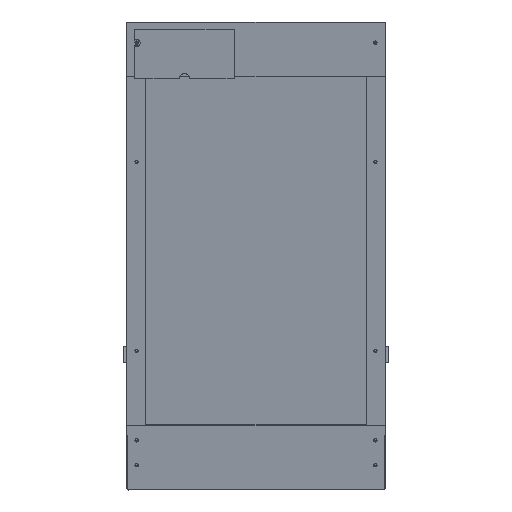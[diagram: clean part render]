
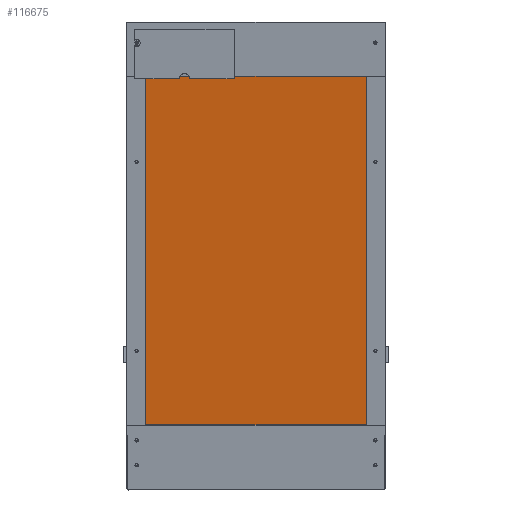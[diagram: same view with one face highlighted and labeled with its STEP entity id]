
A CAD part, top view. The second image highlights one B-rep face of the part: STEP entity #116675.
In plain terms, the highlighted planar face has unit normal (0, -0.174, 0.985).
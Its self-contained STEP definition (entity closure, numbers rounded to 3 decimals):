
#116506 = PLANE('',#116507);
#116507 = AXIS2_PLACEMENT_3D('',#116508,#116509,#116510);
#116508 = CARTESIAN_POINT('',(18.1,64.,86.285));
#116509 = DIRECTION('',(-0.,1.,0.));
#116510 = DIRECTION('',(0.,0.,-1.));
#116534 = PLANE('',#116535);
#116535 = AXIS2_PLACEMENT_3D('',#116536,#116537,#116538);
#116536 = CARTESIAN_POINT('',(241.9,240.675,111.437));
#116537 = DIRECTION('',(1.,0.,0.));
#116538 = DIRECTION('',(-0.,0.,1.));
#116562 = PLANE('',#116563);
#116563 = AXIS2_PLACEMENT_3D('',#116564,#116565,#116566);
#116564 = CARTESIAN_POINT('',(18.1,417.349,136.59));
#116565 = DIRECTION('',(0.,-1.,0.));
#116566 = DIRECTION('',(0.,0.,1.));
#116588 = PLANE('',#116589);
#116589 = AXIS2_PLACEMENT_3D('',#116590,#116591,#116592);
#116590 = CARTESIAN_POINT('',(18.1,240.675,111.437));
#116591 = DIRECTION('',(1.,0.,0.));
#116592 = DIRECTION('',(-0.,0.,1.));
#116605 = VERTEX_POINT('',#116606);
#116606 = CARTESIAN_POINT('',(241.9,417.349,148.59));
#116627 = EDGE_CURVE('',#116628,#116605,#116630,.T.);
#116628 = VERTEX_POINT('',#116629);
#116629 = CARTESIAN_POINT('',(18.1,417.349,148.59));
#116630 = SURFACE_CURVE('',#116631,(#116635,#116642),.PCURVE_S1.);
#116631 = LINE('',#116632,#116633);
#116632 = CARTESIAN_POINT('',(18.1,417.349,148.59));
#116633 = VECTOR('',#116634,1.);
#116634 = DIRECTION('',(1.,0.,0.));
#116635 = PCURVE('',#116562,#116636);
#116636 = DEFINITIONAL_REPRESENTATION('',(#116637),#116641);
#116637 = LINE('',#116638,#116639);
#116638 = CARTESIAN_POINT('',(12.,0.));
#116639 = VECTOR('',#116640,1.);
#116640 = DIRECTION('',(0.,-1.));
#116641 = ( GEOMETRIC_REPRESENTATION_CONTEXT(2) 
PARAMETRIC_REPRESENTATION_CONTEXT() REPRESENTATION_CONTEXT('2D SPACE',''
  ) );
#116642 = PCURVE('',#116643,#116648);
#116643 = PLANE('',#116644);
#116644 = AXIS2_PLACEMENT_3D('',#116645,#116646,#116647);
#116645 = CARTESIAN_POINT('',(18.1,417.349,148.59));
#116646 = DIRECTION('',(0.,0.174,-0.985));
#116647 = DIRECTION('',(0.,-0.985,-0.174));
#116648 = DEFINITIONAL_REPRESENTATION('',(#116649),#116653);
#116649 = LINE('',#116650,#116651);
#116650 = CARTESIAN_POINT('',(0.,0.));
#116651 = VECTOR('',#116652,1.);
#116652 = DIRECTION('',(0.,-1.));
#116653 = ( GEOMETRIC_REPRESENTATION_CONTEXT(2) 
PARAMETRIC_REPRESENTATION_CONTEXT() REPRESENTATION_CONTEXT('2D SPACE',''
  ) );
#116675 = ADVANCED_FACE('',(#116676),#116643,.F.);
#116676 = FACE_BOUND('',#116677,.F.);
#116677 = EDGE_LOOP('',(#116678,#116679,#116702,#116725));
#116678 = ORIENTED_EDGE('',*,*,#116627,.T.);
#116679 = ORIENTED_EDGE('',*,*,#116680,.T.);
#116680 = EDGE_CURVE('',#116605,#116681,#116683,.T.);
#116681 = VERTEX_POINT('',#116682);
#116682 = CARTESIAN_POINT('',(241.9,64.,86.285));
#116683 = SURFACE_CURVE('',#116684,(#116688,#116695),.PCURVE_S1.);
#116684 = LINE('',#116685,#116686);
#116685 = CARTESIAN_POINT('',(241.9,417.349,148.59));
#116686 = VECTOR('',#116687,1.);
#116687 = DIRECTION('',(0.,-0.985,-0.174));
#116688 = PCURVE('',#116643,#116689);
#116689 = DEFINITIONAL_REPRESENTATION('',(#116690),#116694);
#116690 = LINE('',#116691,#116692);
#116691 = CARTESIAN_POINT('',(0.,-223.8));
#116692 = VECTOR('',#116693,1.);
#116693 = DIRECTION('',(1.,0.));
#116694 = ( GEOMETRIC_REPRESENTATION_CONTEXT(2) 
PARAMETRIC_REPRESENTATION_CONTEXT() REPRESENTATION_CONTEXT('2D SPACE',''
  ) );
#116695 = PCURVE('',#116534,#116696);
#116696 = DEFINITIONAL_REPRESENTATION('',(#116697),#116701);
#116697 = LINE('',#116698,#116699);
#116698 = CARTESIAN_POINT('',(37.152,-176.675));
#116699 = VECTOR('',#116700,1.);
#116700 = DIRECTION('',(-0.174,0.985));
#116701 = ( GEOMETRIC_REPRESENTATION_CONTEXT(2) 
PARAMETRIC_REPRESENTATION_CONTEXT() REPRESENTATION_CONTEXT('2D SPACE',''
  ) );
#116702 = ORIENTED_EDGE('',*,*,#116703,.F.);
#116703 = EDGE_CURVE('',#116704,#116681,#116706,.T.);
#116704 = VERTEX_POINT('',#116705);
#116705 = CARTESIAN_POINT('',(18.1,64.,86.285));
#116706 = SURFACE_CURVE('',#116707,(#116711,#116718),.PCURVE_S1.);
#116707 = LINE('',#116708,#116709);
#116708 = CARTESIAN_POINT('',(18.1,64.,86.285));
#116709 = VECTOR('',#116710,1.);
#116710 = DIRECTION('',(1.,0.,0.));
#116711 = PCURVE('',#116643,#116712);
#116712 = DEFINITIONAL_REPRESENTATION('',(#116713),#116717);
#116713 = LINE('',#116714,#116715);
#116714 = CARTESIAN_POINT('',(358.8,0.));
#116715 = VECTOR('',#116716,1.);
#116716 = DIRECTION('',(0.,-1.));
#116717 = ( GEOMETRIC_REPRESENTATION_CONTEXT(2) 
PARAMETRIC_REPRESENTATION_CONTEXT() REPRESENTATION_CONTEXT('2D SPACE',''
  ) );
#116718 = PCURVE('',#116506,#116719);
#116719 = DEFINITIONAL_REPRESENTATION('',(#116720),#116724);
#116720 = LINE('',#116721,#116722);
#116721 = CARTESIAN_POINT('',(0.,0.));
#116722 = VECTOR('',#116723,1.);
#116723 = DIRECTION('',(0.,-1.));
#116724 = ( GEOMETRIC_REPRESENTATION_CONTEXT(2) 
PARAMETRIC_REPRESENTATION_CONTEXT() REPRESENTATION_CONTEXT('2D SPACE',''
  ) );
#116725 = ORIENTED_EDGE('',*,*,#116726,.F.);
#116726 = EDGE_CURVE('',#116628,#116704,#116727,.T.);
#116727 = SURFACE_CURVE('',#116728,(#116732,#116739),.PCURVE_S1.);
#116728 = LINE('',#116729,#116730);
#116729 = CARTESIAN_POINT('',(18.1,417.349,148.59));
#116730 = VECTOR('',#116731,1.);
#116731 = DIRECTION('',(0.,-0.985,-0.174));
#116732 = PCURVE('',#116643,#116733);
#116733 = DEFINITIONAL_REPRESENTATION('',(#116734),#116738);
#116734 = LINE('',#116735,#116736);
#116735 = CARTESIAN_POINT('',(0.,0.));
#116736 = VECTOR('',#116737,1.);
#116737 = DIRECTION('',(1.,0.));
#116738 = ( GEOMETRIC_REPRESENTATION_CONTEXT(2) 
PARAMETRIC_REPRESENTATION_CONTEXT() REPRESENTATION_CONTEXT('2D SPACE',''
  ) );
#116739 = PCURVE('',#116588,#116740);
#116740 = DEFINITIONAL_REPRESENTATION('',(#116741),#116745);
#116741 = LINE('',#116742,#116743);
#116742 = CARTESIAN_POINT('',(37.152,-176.675));
#116743 = VECTOR('',#116744,1.);
#116744 = DIRECTION('',(-0.174,0.985));
#116745 = ( GEOMETRIC_REPRESENTATION_CONTEXT(2) 
PARAMETRIC_REPRESENTATION_CONTEXT() REPRESENTATION_CONTEXT('2D SPACE',''
  ) );
